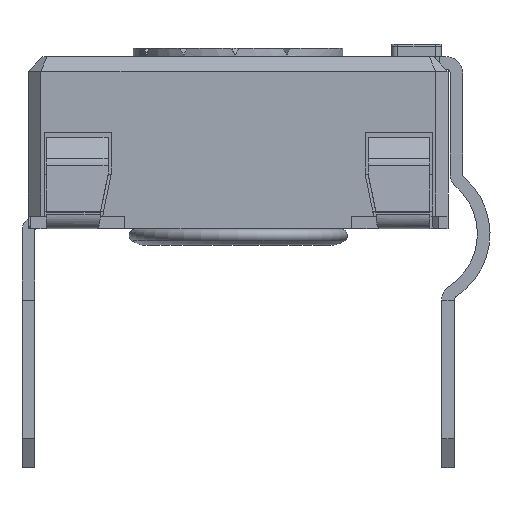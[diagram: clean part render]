
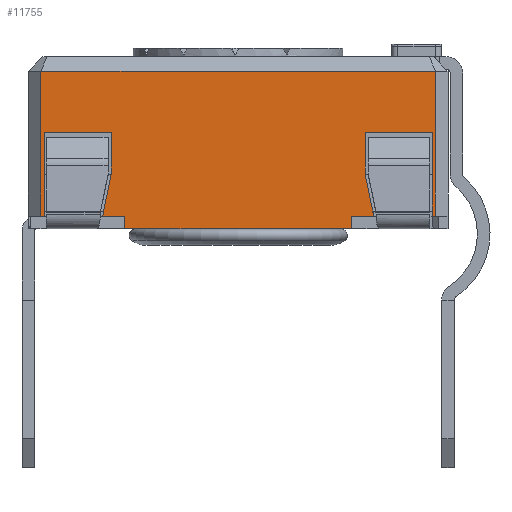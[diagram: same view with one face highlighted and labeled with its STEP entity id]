
A CAD part, left-side view. The second image highlights one B-rep face of the part: STEP entity #11755.
In plain terms, the highlighted planar face has unit normal (-1, 0, 0).
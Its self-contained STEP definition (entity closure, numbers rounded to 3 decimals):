
#959=FACE_OUTER_BOUND('',#1570,.T.);
#1570=EDGE_LOOP('',(#9843,#9844,#9845,#9846,#9847,#9848,#9849,#9850,#9851,
#9852,#9853,#9854,#9855,#9856,#9857,#9858,#9859,#9860));
#2389=LINE('',#17615,#3754);
#2420=LINE('',#17677,#3785);
#2426=LINE('',#17689,#3791);
#2447=LINE('',#17731,#3812);
#2615=LINE('',#18257,#3980);
#2658=LINE('',#18339,#4023);
#2661=LINE('',#18345,#4026);
#2802=LINE('',#18703,#4167);
#2804=LINE('',#18707,#4169);
#2808=LINE('',#18715,#4173);
#2811=LINE('',#18721,#4176);
#2818=LINE('',#18735,#4183);
#2820=LINE('',#18739,#4185);
#2826=LINE('',#18750,#4191);
#2827=LINE('',#18752,#4192);
#2828=LINE('',#18755,#4193);
#2829=LINE('',#18757,#4194);
#2830=LINE('',#18758,#4195);
#3754=VECTOR('',#14311,10.);
#3785=VECTOR('',#14346,10.);
#3791=VECTOR('',#14352,10.);
#3812=VECTOR('',#14375,10.);
#3980=VECTOR('',#14849,10.);
#4023=VECTOR('',#14924,10.);
#4026=VECTOR('',#14933,10.);
#4167=VECTOR('',#15280,10.);
#4169=VECTOR('',#15284,10.);
#4173=VECTOR('',#15290,10.);
#4176=VECTOR('',#15295,10.);
#4183=VECTOR('',#15310,10.);
#4185=VECTOR('',#15314,10.);
#4191=VECTOR('',#15326,10.);
#4192=VECTOR('',#15329,10.);
#4193=VECTOR('',#15332,10.);
#4194=VECTOR('',#15333,10.);
#4195=VECTOR('',#15334,10.);
#5017=VERTEX_POINT('',#17612);
#5018=VERTEX_POINT('',#17614);
#5046=VERTEX_POINT('',#17674);
#5047=VERTEX_POINT('',#17676);
#5052=VERTEX_POINT('',#17686);
#5053=VERTEX_POINT('',#17688);
#5072=VERTEX_POINT('',#17728);
#5073=VERTEX_POINT('',#17730);
#5223=VERTEX_POINT('',#18254);
#5224=VERTEX_POINT('',#18256);
#5337=VERTEX_POINT('',#18701);
#5338=VERTEX_POINT('',#18706);
#5341=VERTEX_POINT('',#18713);
#5343=VERTEX_POINT('',#18720);
#5346=VERTEX_POINT('',#18734);
#5347=VERTEX_POINT('',#18738);
#5350=VERTEX_POINT('',#18754);
#5351=VERTEX_POINT('',#18756);
#6365=EDGE_CURVE('',#5018,#5017,#2389,.T.);
#6396=EDGE_CURVE('',#5047,#5046,#2420,.T.);
#6402=EDGE_CURVE('',#5053,#5052,#2426,.T.);
#6423=EDGE_CURVE('',#5073,#5072,#2447,.T.);
#6668=EDGE_CURVE('',#5224,#5223,#2615,.T.);
#6711=EDGE_CURVE('',#5047,#5223,#2658,.T.);
#6714=EDGE_CURVE('',#5052,#5224,#2661,.T.);
#6888=EDGE_CURVE('',#5046,#5337,#2802,.T.);
#6890=EDGE_CURVE('',#5338,#5053,#2804,.T.);
#6894=EDGE_CURVE('',#5337,#5341,#2808,.T.);
#6897=EDGE_CURVE('',#5343,#5338,#2811,.T.);
#6904=EDGE_CURVE('',#5346,#5343,#2818,.T.);
#6906=EDGE_CURVE('',#5347,#5073,#2820,.T.);
#6912=EDGE_CURVE('',#5341,#5347,#2826,.T.);
#6913=EDGE_CURVE('',#5017,#5346,#2827,.T.);
#6914=EDGE_CURVE('',#5350,#5072,#2828,.T.);
#6915=EDGE_CURVE('',#5351,#5350,#2829,.T.);
#6916=EDGE_CURVE('',#5351,#5018,#2830,.T.);
#9843=ORIENTED_EDGE('',*,*,#6913,.T.);
#9844=ORIENTED_EDGE('',*,*,#6904,.T.);
#9845=ORIENTED_EDGE('',*,*,#6897,.T.);
#9846=ORIENTED_EDGE('',*,*,#6890,.T.);
#9847=ORIENTED_EDGE('',*,*,#6402,.T.);
#9848=ORIENTED_EDGE('',*,*,#6714,.T.);
#9849=ORIENTED_EDGE('',*,*,#6668,.T.);
#9850=ORIENTED_EDGE('',*,*,#6711,.F.);
#9851=ORIENTED_EDGE('',*,*,#6396,.T.);
#9852=ORIENTED_EDGE('',*,*,#6888,.T.);
#9853=ORIENTED_EDGE('',*,*,#6894,.T.);
#9854=ORIENTED_EDGE('',*,*,#6912,.T.);
#9855=ORIENTED_EDGE('',*,*,#6906,.T.);
#9856=ORIENTED_EDGE('',*,*,#6423,.T.);
#9857=ORIENTED_EDGE('',*,*,#6914,.F.);
#9858=ORIENTED_EDGE('',*,*,#6915,.F.);
#9859=ORIENTED_EDGE('',*,*,#6916,.T.);
#9860=ORIENTED_EDGE('',*,*,#6365,.T.);
#10970=PLANE('',#12626);
#11755=ADVANCED_FACE('',(#959),#10970,.T.);
#12626=AXIS2_PLACEMENT_3D('',#18753,#15330,#15331);
#14311=DIRECTION('',(0.,-1.,0.));
#14346=DIRECTION('',(0.,-1.,0.));
#14352=DIRECTION('',(0.,-1.,0.));
#14375=DIRECTION('',(0.,-1.,0.));
#14849=DIRECTION('',(0.,-1.,0.));
#14924=DIRECTION('',(0.,0.,-1.));
#14933=DIRECTION('',(0.,0.,-1.));
#15280=DIRECTION('',(0.,0.199,0.98));
#15284=DIRECTION('',(0.,0.199,-0.98));
#15290=DIRECTION('',(0.,0.,1.));
#15295=DIRECTION('',(0.,0.,-1.));
#15310=DIRECTION('',(0.,-1.,0.));
#15314=DIRECTION('',(0.,0.,-1.));
#15326=DIRECTION('',(0.,-1.,0.));
#15329=DIRECTION('',(0.,0.,1.));
#15330=DIRECTION('center_axis',(-1.,0.,0.));
#15331=DIRECTION('ref_axis',(0.,0.,1.));
#15332=DIRECTION('',(0.,0.,-1.));
#15333=DIRECTION('',(0.,-1.,0.));
#15334=DIRECTION('',(0.,0.,-1.));
#17612=CARTESIAN_POINT('',(-31.348,-8.365,-3.8));
#17614=CARTESIAN_POINT('',(-31.348,-8.29,-3.8));
#17615=CARTESIAN_POINT('',(-31.348,-17.69,-3.8));
#17674=CARTESIAN_POINT('',(-31.348,-16.219,-3.8));
#17676=CARTESIAN_POINT('',(-31.348,-15.69,-3.8));
#17677=CARTESIAN_POINT('',(-31.348,-9.762,-3.8));
#17686=CARTESIAN_POINT('',(-31.348,-10.29,-3.8));
#17688=CARTESIAN_POINT('',(-31.348,-9.762,-3.8));
#17689=CARTESIAN_POINT('',(-31.348,-9.762,-3.8));
#17728=CARTESIAN_POINT('',(-31.348,-17.69,-3.8));
#17730=CARTESIAN_POINT('',(-31.348,-17.615,-3.8));
#17731=CARTESIAN_POINT('',(-31.348,-17.69,-3.8));
#18254=CARTESIAN_POINT('',(-31.348,-15.69,-4.1));
#18256=CARTESIAN_POINT('',(-31.348,-10.29,-4.1));
#18257=CARTESIAN_POINT('',(-31.348,-16.219,-4.1));
#18339=CARTESIAN_POINT('',(-31.348,-15.69,-3.8));
#18345=CARTESIAN_POINT('',(-31.348,-10.29,-3.8));
#18701=CARTESIAN_POINT('',(-31.348,-16.015,-2.8));
#18703=CARTESIAN_POINT('',(-31.348,-16.219,-3.8));
#18706=CARTESIAN_POINT('',(-31.348,-9.965,-2.8));
#18707=CARTESIAN_POINT('',(-31.348,-9.965,-2.8));
#18713=CARTESIAN_POINT('',(-31.348,-16.015,-1.8));
#18715=CARTESIAN_POINT('',(-31.348,-16.015,-2.8));
#18720=CARTESIAN_POINT('',(-31.348,-9.965,-1.8));
#18721=CARTESIAN_POINT('',(-31.348,-9.965,-1.8));
#18734=CARTESIAN_POINT('',(-31.348,-8.365,-1.8));
#18735=CARTESIAN_POINT('',(-31.348,-10.64,-1.8));
#18738=CARTESIAN_POINT('',(-31.348,-17.615,-1.8));
#18739=CARTESIAN_POINT('',(-31.348,-17.615,-1.368));
#18750=CARTESIAN_POINT('',(-31.348,-10.64,-1.8));
#18752=CARTESIAN_POINT('',(-31.348,-8.365,-1.368));
#18753=CARTESIAN_POINT('Origin',(-31.348,-8.29,0.));
#18754=CARTESIAN_POINT('',(-31.348,-17.69,-0.35));
#18755=CARTESIAN_POINT('',(-31.348,-17.69,0.));
#18756=CARTESIAN_POINT('',(-31.348,-8.29,-0.35));
#18757=CARTESIAN_POINT('',(-31.348,-10.64,-0.35));
#18758=CARTESIAN_POINT('',(-31.348,-8.29,0.));
